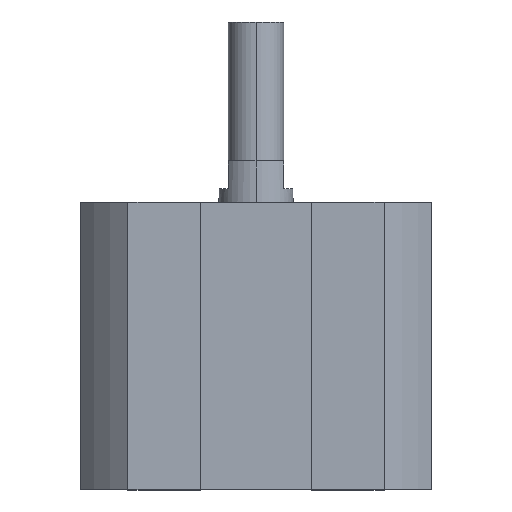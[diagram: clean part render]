
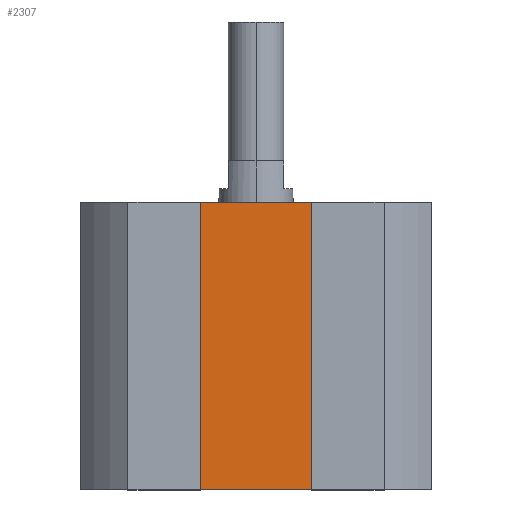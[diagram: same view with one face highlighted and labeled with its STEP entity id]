
A CAD part, top view. The second image highlights one B-rep face of the part: STEP entity #2307.
In plain terms, the highlighted planar face has unit normal (0, 0, 1).
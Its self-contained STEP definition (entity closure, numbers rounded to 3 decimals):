
#103 = EDGE_LOOP ( 'NONE', ( #2196, #1189, #1146, #1727 ) ) ;
#199 = VERTEX_POINT ( 'NONE', #454 ) ;
#200 = DIRECTION ( 'NONE',  ( 0., 0., 1. ) ) ;
#278 = LINE ( 'NONE', #844, #998 ) ;
#363 = VERTEX_POINT ( 'NONE', #2119 ) ;
#370 = AXIS2_PLACEMENT_3D ( 'NONE', #591, #200, #2433 ) ;
#454 = CARTESIAN_POINT ( 'NONE',  ( -7.75, -31., 12.75 ) ) ;
#536 = LINE ( 'NONE', #1598, #2104 ) ;
#547 = EDGE_CURVE ( 'NONE', #199, #363, #536, .T. ) ;
#591 = CARTESIAN_POINT ( 'NONE',  ( 0., -31., 12.75 ) ) ;
#627 = DIRECTION ( 'NONE',  ( 1., 0., 0. ) ) ;
#699 = CARTESIAN_POINT ( 'NONE',  ( -7.75, 0., 12.75 ) ) ;
#717 = DIRECTION ( 'NONE',  ( 0., 1., 0. ) ) ;
#722 = CARTESIAN_POINT ( 'NONE',  ( -7.75, -31., 12.75 ) ) ;
#844 = CARTESIAN_POINT ( 'NONE',  ( 0., 0., 12.75 ) ) ;
#998 = VECTOR ( 'NONE', #627, 1000. ) ;
#1091 = LINE ( 'NONE', #2158, #2587 ) ;
#1106 = VERTEX_POINT ( 'NONE', #699 ) ;
#1136 = VERTEX_POINT ( 'NONE', #1476 ) ;
#1146 = ORIENTED_EDGE ( 'NONE', *, *, #547, .T. ) ;
#1188 = FACE_OUTER_BOUND ( 'NONE', #103, .T. ) ;
#1189 = ORIENTED_EDGE ( 'NONE', *, *, #2514, .F. ) ;
#1395 = DIRECTION ( 'NONE',  ( 1., 0., 0. ) ) ;
#1445 = PLANE ( 'NONE',  #370 ) ;
#1476 = CARTESIAN_POINT ( 'NONE',  ( 7.75, 0., 12.75 ) ) ;
#1513 = VECTOR ( 'NONE', #2361, 1000. ) ;
#1598 = CARTESIAN_POINT ( 'NONE',  ( 0., -31., 12.75 ) ) ;
#1678 = EDGE_CURVE ( 'NONE', #363, #1136, #1091, .T. ) ;
#1727 = ORIENTED_EDGE ( 'NONE', *, *, #1678, .T. ) ;
#2043 = LINE ( 'NONE', #722, #1513 ) ;
#2104 = VECTOR ( 'NONE', #1395, 1000. ) ;
#2119 = CARTESIAN_POINT ( 'NONE',  ( 7.75, -31., 12.75 ) ) ;
#2158 = CARTESIAN_POINT ( 'NONE',  ( 7.75, -31., 12.75 ) ) ;
#2196 = ORIENTED_EDGE ( 'NONE', *, *, #2461, .F. ) ;
#2307 = ADVANCED_FACE ( 'NONE', ( #1188 ), #1445, .T. ) ;
#2361 = DIRECTION ( 'NONE',  ( 0., 1., 0. ) ) ;
#2433 = DIRECTION ( 'NONE',  ( 1., 0., 0. ) ) ;
#2461 = EDGE_CURVE ( 'NONE', #1106, #1136, #278, .T. ) ;
#2514 = EDGE_CURVE ( 'NONE', #199, #1106, #2043, .T. ) ;
#2587 = VECTOR ( 'NONE', #717, 1000. ) ;
